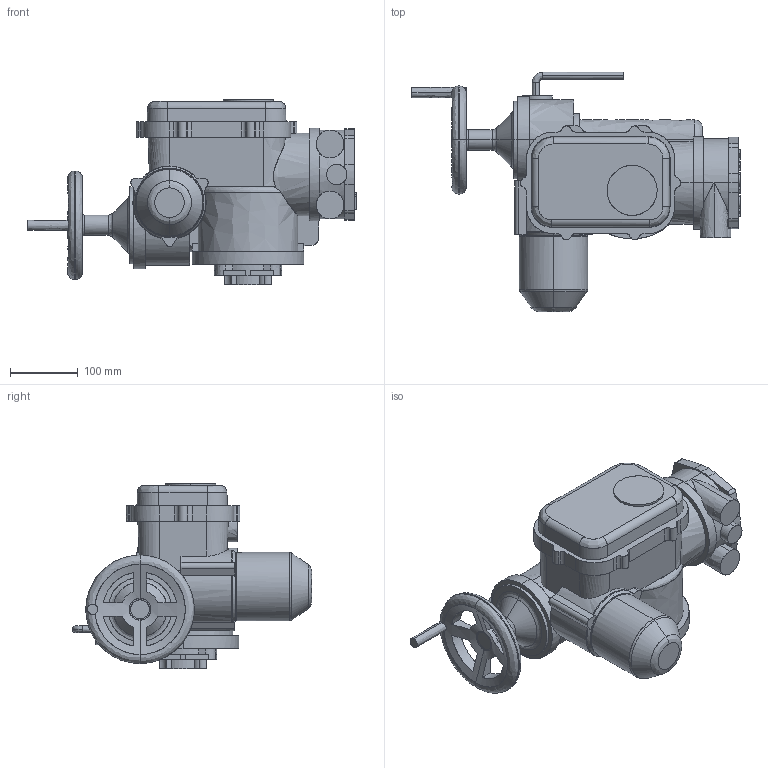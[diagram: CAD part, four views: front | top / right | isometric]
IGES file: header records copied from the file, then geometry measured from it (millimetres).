
Start section: Comment
Global section: file name: Q300SET+F07-1.igs; native system:  By Spatial Corp.; preprocessor: XPlus PS/IGES 3.0; author: Paul Exton; organization: Rotork Controls Ltd; date: 20030616.141949; units: millimetre
Bounding box: 484.6 x 353.51 x 273.2 mm (x, y, z)
Surface area: 462983.5 mm2 (no closed solid volume)
Topology: 0 solids, 0 shells, 429 faces, 2432 edges, 2424 vertices
Faces by surface type: bspline 429
